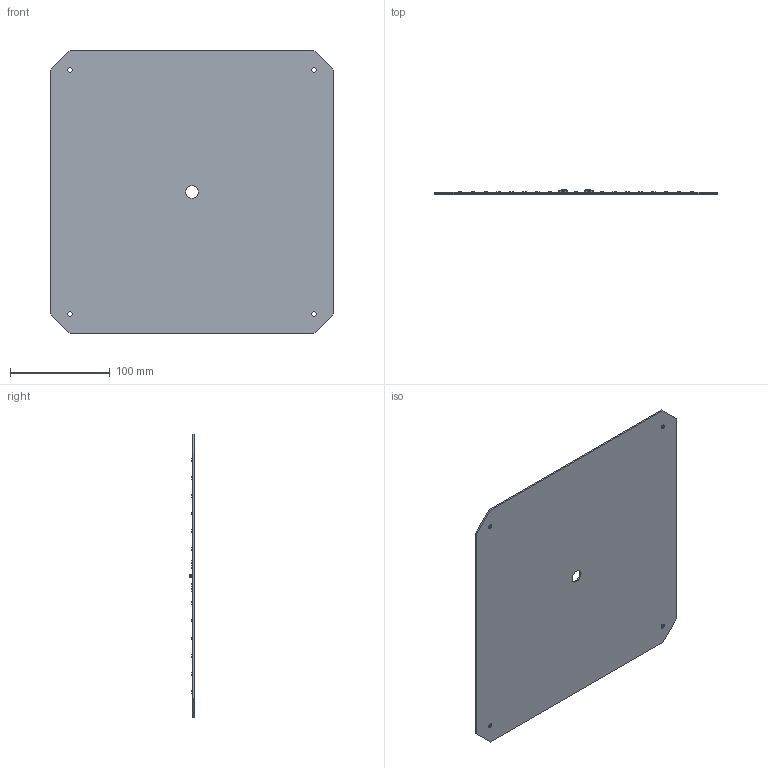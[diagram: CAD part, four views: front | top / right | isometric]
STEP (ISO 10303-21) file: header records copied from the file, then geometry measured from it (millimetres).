
FILE_DESCRIPTION (( 'STEP AP214' ), '1' );
FILE_NAME ('BXEB-SQ0284 ver. D (15-000673 revA).STEP', '2020-11-12T17:50:33', ( '' ), ( '' ), 'SwSTEP 2.0', 'SolidWorks 2020', '' );
FILE_SCHEMA (( 'AUTOMOTIVE_DESIGN' ));
Length unit declared in the file: millimetre
Products named in the file (1): BXEB-SQ0284 ver. D (15-000673 revA)
Bounding box: 284 x 4.23 x 284 mm (x, y, z)
Volume: 121447.2 mm3; surface area: 163611.3 mm2
Topology: 3 solids, 3 shells, 2173 faces, 5397 edges, 3588 vertices
Faces by surface type: plane 1898, bspline 192, cylinder 81, sphere 2
Full cylindrical faces by diameter (mm): 0.597 x1, 1.019 x1, 1.25 x2, 1.5 x2, 2.1 x2, 3 x2, 4.5 x4, 12.7 x1
Entity records: 96052 total; most frequent: CARTESIAN_POINT 21798, ORIENTED_EDGE 10748, DIRECTION 8946, EDGE_CURVE 5374, VECTOR 4822, LINE 4822, VERTEX_POINT 3586, EDGE_LOOP 2562
